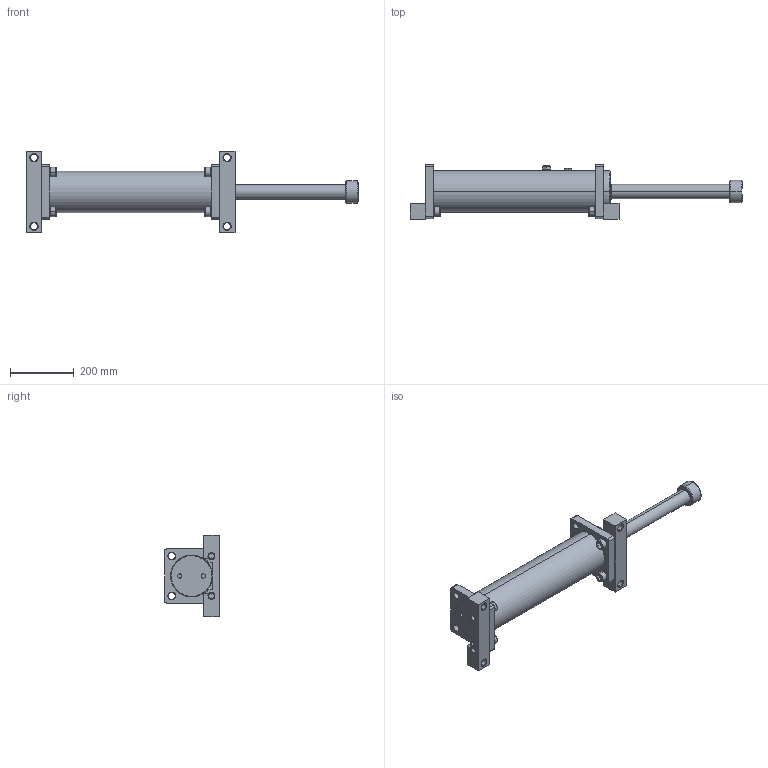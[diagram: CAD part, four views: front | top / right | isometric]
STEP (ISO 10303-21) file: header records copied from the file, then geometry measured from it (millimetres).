
FILE_DESCRIPTION (( 'STEP AP214' ), '1' );
FILE_NAME ('LDD3.0X14.STEP', '2019-01-16T07:04:10', ( 'user' ), ( 'Microsoft' ), 'SwSTEP 2.0', 'SolidWorks 2016', '' );
FILE_SCHEMA (( 'AUTOMOTIVE_DESIGN' ));
Length unit declared in the file: inch
Products named in the file (1): LDD3.0X14
Bounding box: 1045 x 172.5 x 255 mm (x, y, z)
Surface area: 603310.8 mm2 (no closed solid volume)
Topology: 0 solids, 21 shells, 277 faces, 742 edges, 495 vertices
Faces by surface type: plane 108, cylinder 87, cone 52, bspline 30
Entity records: 15129 total; most frequent: CARTESIAN_POINT 8268, DIRECTION 1427, ORIENTED_EDGE 1332, EDGE_CURVE 742, AXIS2_PLACEMENT_3D 538, VERTEX_POINT 495, LINE 351, VECTOR 351
